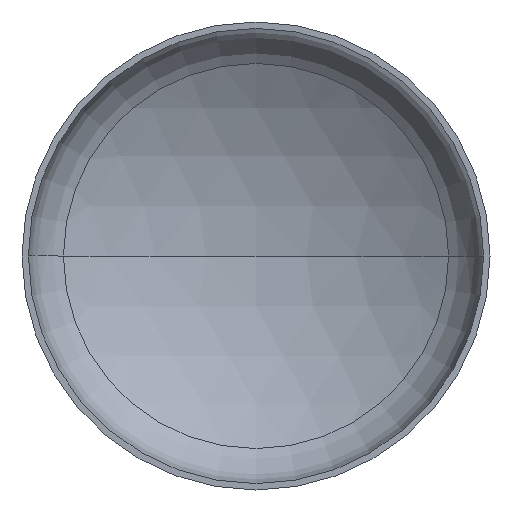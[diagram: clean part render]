
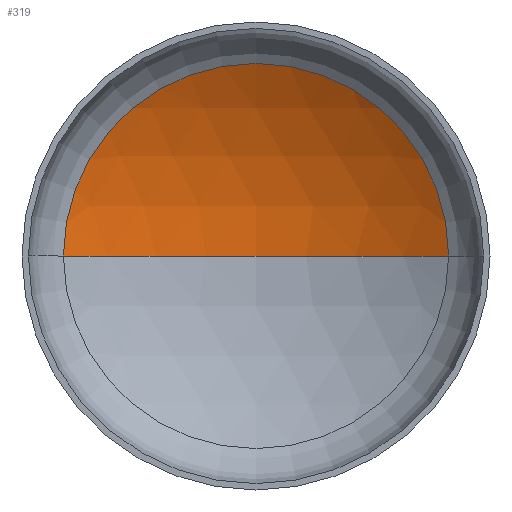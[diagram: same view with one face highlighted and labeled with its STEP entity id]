
A CAD part, front view. The second image highlights one B-rep face of the part: STEP entity #319.
In plain terms, the highlighted spherical face has radius 4800 mm.
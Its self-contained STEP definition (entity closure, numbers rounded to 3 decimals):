
#24 = AXIS2_PLACEMENT_3D ( 'NONE', #86, #381, #79 ) ;
#42 = VERTEX_POINT ( 'NONE', #236 ) ;
#46 = CIRCLE ( 'NONE', #97, 2468.748 ) ;
#71 = VERTEX_POINT ( 'NONE', #231 ) ;
#79 = DIRECTION ( 'NONE',  ( -1., 0., 0. ) ) ;
#85 = AXIS2_PLACEMENT_3D ( 'NONE', #306, #304, #303 ) ;
#86 = CARTESIAN_POINT ( 'NONE',  ( 0., -3223.188, 0. ) ) ;
#88 = AXIS2_PLACEMENT_3D ( 'NONE', #186, #136, #141 ) ;
#97 = AXIS2_PLACEMENT_3D ( 'NONE', #202, #198, #199 ) ;
#123 = ORIENTED_EDGE ( 'NONE', *, *, #158, .T. ) ;
#125 = VERTEX_POINT ( 'NONE', #212 ) ;
#136 = DIRECTION ( 'NONE',  ( 0., 0., -1. ) ) ;
#141 = DIRECTION ( 'NONE',  ( -1., 0., 0. ) ) ;
#158 = EDGE_CURVE ( 'NONE', #125, #71, #46, .T. ) ;
#162 = EDGE_CURVE ( 'NONE', #42, #125, #188, .T. ) ;
#166 = EDGE_CURVE ( 'NONE', #42, #71, #371, .T. ) ;
#175 = ORIENTED_EDGE ( 'NONE', *, *, #162, .T. ) ;
#186 = CARTESIAN_POINT ( 'NONE',  ( 0., -3223.188, 0. ) ) ;
#188 = CIRCLE ( 'NONE', #88, 4800. ) ;
#198 = DIRECTION ( 'NONE',  ( 0., -1., 0. ) ) ;
#199 = DIRECTION ( 'NONE',  ( 1., 0., 0. ) ) ;
#202 = CARTESIAN_POINT ( 'NONE',  ( 0., 893.277, 0. ) ) ;
#212 = CARTESIAN_POINT ( 'NONE',  ( 2468.748, 893.277, 0. ) ) ;
#229 = EDGE_LOOP ( 'NONE', ( #398, #175, #123 ) ) ;
#231 = CARTESIAN_POINT ( 'NONE',  ( -2468.748, 893.277, 0. ) ) ;
#236 = CARTESIAN_POINT ( 'NONE',  ( 0., 1576.812, 0. ) ) ;
#303 = DIRECTION ( 'NONE',  ( 1., 0., 0. ) ) ;
#304 = DIRECTION ( 'NONE',  ( 0., 0., 1. ) ) ;
#305 = FACE_OUTER_BOUND ( 'NONE', #229, .T. ) ;
#306 = CARTESIAN_POINT ( 'NONE',  ( 0., -3223.188, 0. ) ) ;
#319 = ADVANCED_FACE ( 'NONE', ( #305 ), #399, .F. ) ;
#371 = CIRCLE ( 'NONE', #85, 4800. ) ;
#381 = DIRECTION ( 'NONE',  ( 0., 0., -1. ) ) ;
#398 = ORIENTED_EDGE ( 'NONE', *, *, #166, .F. ) ;
#399 = SPHERICAL_SURFACE ( 'NONE', #24, 4800. ) ;
